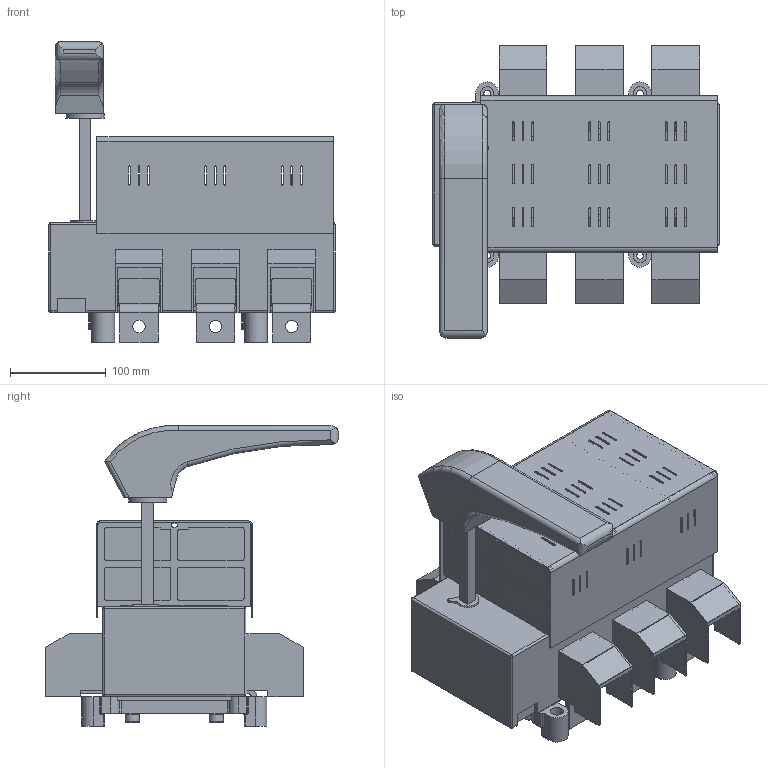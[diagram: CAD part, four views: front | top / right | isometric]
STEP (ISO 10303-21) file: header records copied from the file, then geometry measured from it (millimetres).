
FILE_DESCRIPTION(/* description */ (''),/* implementation_level */ '2;1');
FILE_NAME(/* name */ 'RAB 3 P3 A-R z oslona zaciskow.stp',/* time_stamp */ '2021-08-19T14:49:48+02:00',/* author */ (''),/* organization */ (''),/* preprocessor_version */ 'ST-DEVELOPER v18.1',/* originating_system */ 'SIEMENS PLM Software NX 1965',/* authorisation */ '');
FILE_SCHEMA (('AUTOMOTIVE_DESIGN { 1 0 10303 214 3 1 1 1 }'));
Length unit declared in the file: millimetre
Products named in the file (1): RAB 3 P3 A-R z oslona zaciskow_stp
Bounding box: 300 x 307 x 314.5 mm (x, y, z)
Volume: 5028413.7 mm3; surface area: 805015.4 mm2
Topology: 1 solids, 13 shells, 1734 faces, 4728 edges, 3039 vertices
Faces by surface type: plane 1050, cylinder 568, torus 50, bspline 50, cone 8, sphere 8
Full cylindrical faces by diameter (mm): 3 x4, 4.8 x4, 5.6 x4, 6.5 x26, 7 x4, 10.5 x26, 13 x6, 13.5 x4, 14 x4, 15 x4, 40 x1
Entity records: 56633 total; most frequent: CARTESIAN_POINT 12567, ORIENTED_EDGE 9154, DIRECTION 9052, EDGE_CURVE 4577, LINE 3204, VECTOR 3204, VERTEX_POINT 3011, AXIS2_PLACEMENT_3D 2924
